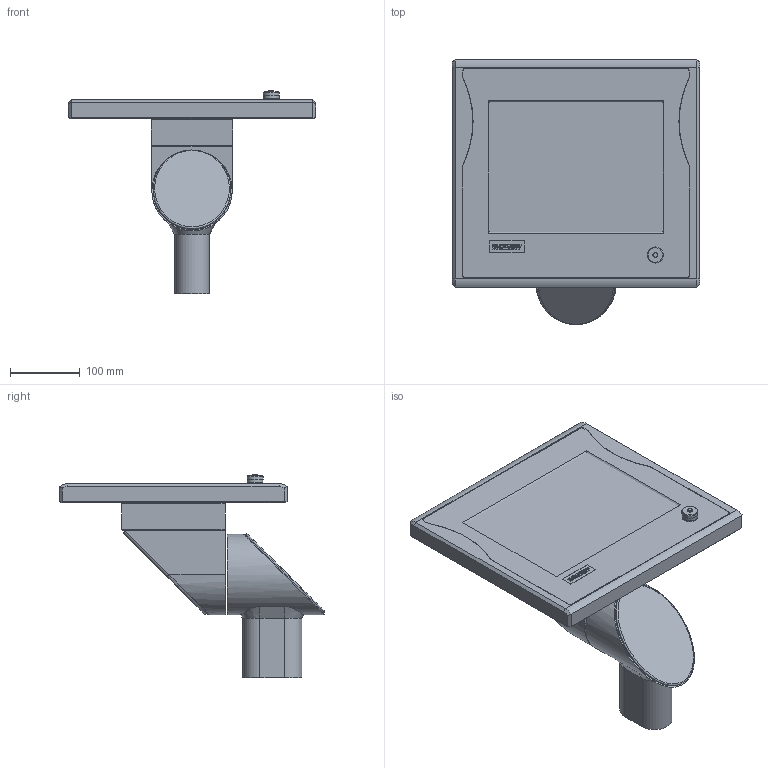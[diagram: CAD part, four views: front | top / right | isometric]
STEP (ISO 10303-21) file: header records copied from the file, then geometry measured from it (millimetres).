
FILE_DESCRIPTION(/* description */ (''),/* implementation_level */ '2;1');
FILE_NAME(/* name */ 'X:\0-inventor\0-3d-Teile\PC-Compo\solids\CP79xx\STEP-Ausgabe\CP7901-0020-M220.stp',/* time_stamp */ '2018-05-08T11:02:27+02:00',/* author */ ('ChristianKreuzer'),/* organization */ ('Design-AG'),/* preprocessor_version */ 'ST-DEVELOPER v17',/* originating_system */ 'Autodesk Inventor 2018',/* authorisation */ '');
FILE_SCHEMA (('AUTOMOTIVE_DESIGN { 1 0 10303 214 3 1 1 }'));
Length unit declared in the file: millimetre
Products named in the file (4): CP7901-0020-M220-Step; CP7901-0020-M220-Step.iam; C9900-M220; DIN 912 - M10 x 25
Assembly tree (6 placements, depth 2):
  CP7901-0020-M220-Step
    CP7901-0020-M220-Step.iam
    C9900-M220
    DIN 912 - M10 x 25  x4
Bounding box: 353.8 x 379.73 x 290.8 mm (x, y, z)
Volume: 5503640.5 mm3; surface area: 764911.2 mm2
Topology: 17 solids, 18 shells, 778 faces, 2033 edges, 1342 vertices
Faces by surface type: plane 428, cylinder 179, cone 78, bspline 49, sphere 31, torus 13
Full cylindrical faces by diameter (mm): 0.5 x8, 1 x23, 3.242 x1, 4 x1, 4.3 x1, 6 x2, 6.6 x1, 7 x2, 7.6 x8, 7.9 x1, 8 x1, 8.376 x4, 9 x3, 10 x4, 11 x6, 12 x1, 16 x4, 16.01 x1, 18 x1, 18.5 x1, 20 x2, 22.4 x1, 22.5 x1, 23 x1, 115 x1
Entity records: 26023 total; most frequent: CARTESIAN_POINT 7281, ORIENTED_EDGE 3738, DIRECTION 3646, EDGE_CURVE 1869, AXIS2_PLACEMENT_3D 1294, VERTEX_POINT 1255, LINE 1058, VECTOR 1058
